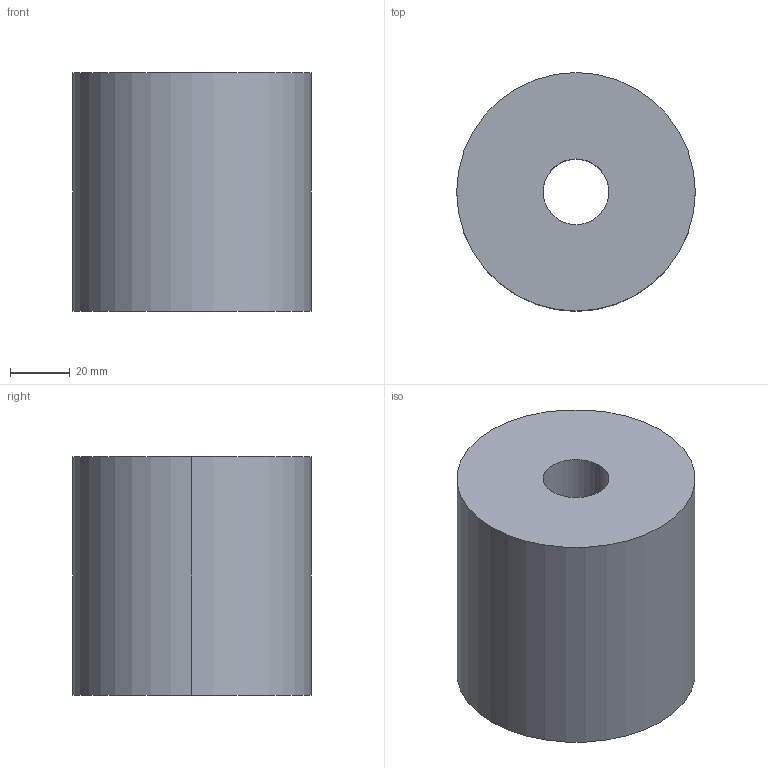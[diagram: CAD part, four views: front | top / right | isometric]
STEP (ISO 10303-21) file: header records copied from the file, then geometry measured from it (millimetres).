
FILE_DESCRIPTION(/* description */ (''),/* implementation_level */ '2;1');
FILE_NAME(/* name */ '3d_pa80-80_04920_r00.stp',/* time_stamp */ '2011-01-10T14:11:57+09:00',/* author */ ('MISUMI'),/* organization */ (''),/* preprocessor_version */ 'ST-DEVELOPER v11',/* originating_system */ 'UGS - NX 5.0',/* authorisation */ '');
FILE_SCHEMA (('CONFIG_CONTROL_DESIGN'));
Length unit declared in the file: millimetre
Products named in the file (1): 3d_pa80-80_04920_r00
Bounding box: 80 x 80 x 80 mm (x, y, z)
Volume: 371713.2 mm3; surface area: 34928.2 mm2
Topology: 1 solids, 1 shells, 6 faces, 12 edges, 8 vertices
Faces by surface type: cylinder 4, plane 2
Entity records: 254 total; most frequent: DIRECTION 34, CARTESIAN_POINT 27, ORIENTED_EDGE 24, AXIS2_PLACEMENT_3D 15, EDGE_CURVE 12, EDGE_LOOP 8, VERTEX_POINT 8, CIRCLE 8
